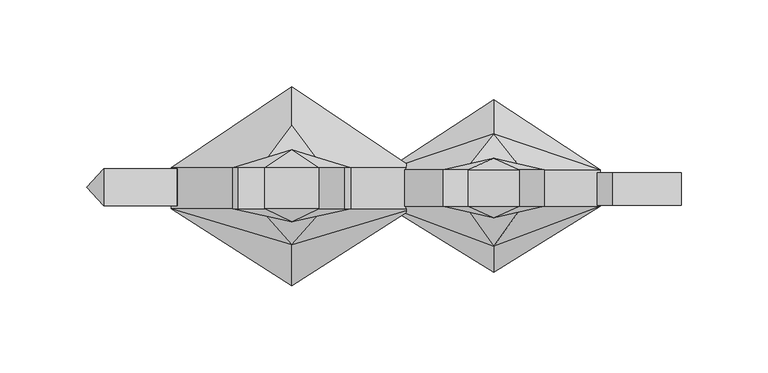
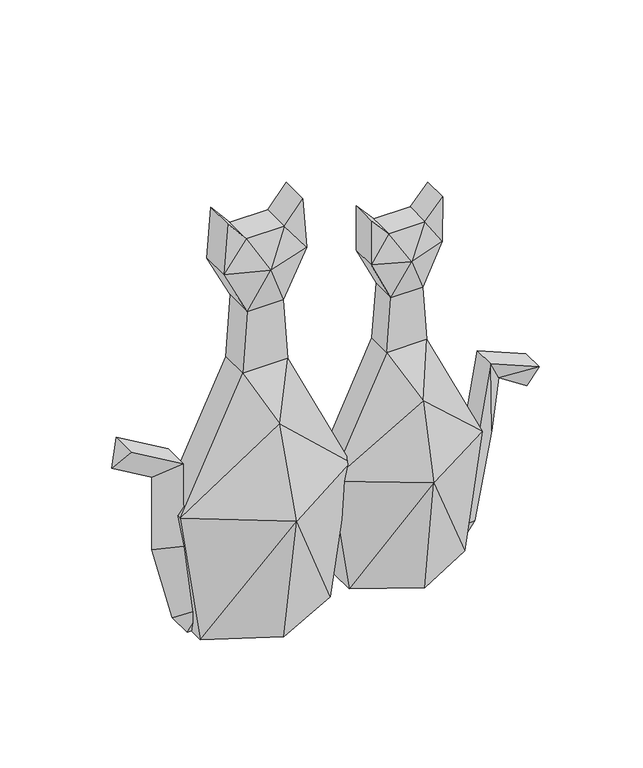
"""IFC4 building model written with IfcOpenShell, lengths in millimetres: geographic element geometry, Enscape AssetDefinition - Decorative Goods 012 Cats : Enscape AssetDefinition - Decorative Goods 012 Cats."""

from ifc_helpers import new_model, si_unit, origin, place, context, project, spatial, triangles, source, transform, mapped, element, save


def geographic_element_de8e18e4(model_context):
    return source(origin(), model_context, "Body", "Tessellation", [
        triangles([(61.0676615, -17.168548, 270.2483299), (90.1236505, -10.471447, 273.7434473), (75.8359824, -10.471447, 295.6705609), (46.2993405, 10.5532178, 295.6705609), (46.2993405, -10.471447, 295.6705609), (75.8359824, 10.5532178, 295.6705609), (31.9219114, -10.471447, 311.9535968), (31.9219114, 10.5532178, 311.9535968), (32.0116589, 10.5532178, 273.7434473), (32.0116589, -10.471447, 273.7434473), (90.1236505, 10.5532178, 273.7434473), (61.0676615, 17.2503177, 270.7259716), (90.2143971, -10.471447, 311.9535968), (90.2143971, 10.5532178, 311.9535968), (74.1437529, 10.5532178, 239.7154916), (47.9925557, 10.5532178, 239.7154916), (77.4843239, 10.5532178, 193.4999259), (74.1437529, -10.471447, 239.7154916), (47.9925557, -10.471447, 239.7154916), (61.0676615, -33.5184074, 160.1141367), (77.4843239, -10.471447, 193.4999259), (122.7565605, 10.5532178, 98.1141148), (122.7565605, -10.471447, 98.1141148), (-0.6202495, -10.471447, 98.1141148), (61.0676615, -35.853814, 0.0), (61.0676615, -48.6487066, 98.3394735), (108.1936685, -10.471447, 0.0), (108.1936685, 10.5532178, 0.0), (61.0676615, 51.0808437, 98.3394735), (61.0676615, 37.235913, 0.0), (13.9416545, -10.471447, 0.0), (13.9426525, 10.5532178, 0.0), (61.0676615, 31.3674781, 160.1141367), (44.65099, -10.471447, 193.4999259), (-0.6202495, 10.5532178, 98.1141148), (44.65099, 10.5532178, 193.4999259), (105.904128, 8.9028745, 21.9241273), (136.3372359, -0.5215282, 87.6286901), (122.2320467, -0.5215282, 15.0535166), (95.282111, -0.5215282, 0.0), (111.3128549, -0.5215282, 0.0), (105.904128, -9.9459307, 21.9241273), (118.823661, 8.9028745, 89.863392), (118.823661, -9.9459307, 89.863392), (141.7908547, -0.5215282, 131.6753929), (129.8505406, 8.9028745, 153.4938286), (129.8505406, -9.9459307, 153.4938286), (164.8418096, -0.5215282, 116.6158924), (169.4886917, -9.9459307, 137.0562055), (169.4886917, 8.9028745, 137.0562055), (-21.4424866, 11.6710627, 308.4704518), (-89.646999, 11.6710627, 308.4704518), (-55.5452424, 22.0866697, 304.5315753), (-39.9971226, 11.6710627, 333.1796994), (-39.9971226, -12.0210754, 333.1796994), (-71.0923675, 11.6710627, 333.1796994), (-24.8598425, -12.0210754, 351.5279254), (-24.8598425, 11.6710627, 351.5279254), (-21.4424866, -12.0210754, 308.4704518), (-89.646999, -12.0210754, 308.4704518), (-55.5452424, -19.5677782, 305.0690606), (-71.0923675, -12.0210754, 333.1796994), (-86.2296476, -12.0210754, 351.5279254), (-86.2296476, 11.6710627, 351.5279254), (-70.2796582, 11.6710627, 270.125663), (-70.2796582, -12.0210754, 270.125663), (-74.0440406, -12.0210754, 218.0476463), (-40.810822, 11.6710627, 270.125663), (-40.810822, -12.0210754, 270.125663), (-74.0440406, 11.6710627, 218.0476463), (-108.649382, -12.0210754, 0.0), (-125.0590726, 11.6710627, 110.5599848), (-125.0590726, -12.0210754, 110.5599848), (-55.5452424, -56.5384412, 110.8142753), (-55.5452424, 36.6475768, 180.4258148), (-2.4411108, 11.6710627, 0.0), (-55.5452424, 58.5208466, 110.8142753), (-108.649382, 11.6710627, 0.0), (-55.5452424, 38.9530684, 0.0), (-55.5452424, -38.301909, 0.0), (-2.4411108, -12.0210754, 0.0), (13.9695756, -12.0210754, 110.5599848), (-55.5452424, -32.8183797, 180.4258148), (13.9695756, 11.6710627, 110.5599848), (-37.0454518, 11.6710627, 218.0476463), (-37.0454518, -12.0210754, 218.0476463), (-140.9452395, 0.4587055, 81.3613855), (-124.468738, 0.4587055, 16.9631282), (-94.0994343, 0.4587055, 0.0), (-112.1634662, 0.4587055, 0.0), (-106.0686529, -10.1613234, 24.705278), (-106.0686529, 11.0787353, 24.705278), (-121.2099252, 11.0787353, 83.8802816), (-121.4522433, -10.1613234, 155.5500257), (-121.2099252, -10.1613234, 83.8802816), (-121.4522433, 11.0787353, 155.5500257), (-163.9493132, -10.1613234, 180.2752244), (-141.1586258, 0.4587055, 144.1721319), (-163.9493132, 11.0787353, 180.2752244), (-173.879303, 0.4587055, 163.2094056)], [[97, 99, 100], [98, 100, 99], [96, 99, 97], [99, 96, 98], [97, 94, 96], [94, 97, 100], [100, 98, 94], [95, 94, 98], [87, 98, 96], [98, 87, 95], [93, 96, 94], [94, 95, 93], [96, 93, 87], [92, 93, 95], [95, 91, 92], [91, 95, 87], [89, 92, 91], [90, 89, 91], [92, 89, 90], [88, 87, 93], [93, 92, 88], [87, 88, 91], [90, 88, 92], [88, 90, 91], [86, 85, 69], [85, 86, 82], [86, 83, 82], [85, 82, 84], [84, 82, 81], [84, 81, 76], [83, 74, 82], [82, 74, 81], [74, 80, 81], [76, 81, 80], [79, 76, 80], [71, 80, 74], [80, 71, 78], [80, 78, 79], [77, 79, 78], [77, 84, 76], [77, 76, 79], [75, 85, 84], [75, 84, 77], [72, 78, 71], [75, 77, 72], [77, 78, 72], [73, 74, 83], [72, 71, 73], [73, 71, 74], [67, 73, 83], [67, 83, 86], [70, 72, 73], [70, 73, 67], [75, 72, 70], [70, 85, 75], [68, 85, 70], [85, 68, 69], [51, 69, 68], [65, 68, 70], [70, 67, 66], [66, 67, 86], [70, 66, 65], [69, 66, 86], [52, 65, 66], [52, 66, 60], [52, 60, 63], [52, 63, 64], [62, 63, 60], [64, 63, 62], [66, 69, 61], [60, 66, 61], [61, 62, 60], [51, 59, 69], [59, 61, 69], [51, 57, 59], [51, 58, 57], [59, 57, 55], [61, 55, 62], [58, 55, 57], [61, 59, 55], [52, 64, 56], [56, 62, 55], [64, 62, 56], [54, 58, 51], [54, 56, 55], [58, 54, 55], [68, 65, 53], [53, 51, 68], [53, 56, 54], [53, 65, 52], [53, 52, 56], [53, 54, 51], [50, 49, 48], [45, 48, 49], [47, 49, 50], [49, 47, 45], [50, 46, 47], [46, 50, 48], [48, 45, 46], [43, 46, 45], [38, 45, 47], [45, 38, 43], [44, 47, 46], [46, 43, 44], [47, 44, 38], [42, 44, 43], [43, 37, 42], [37, 43, 38], [40, 42, 37], [41, 40, 37], [42, 40, 41], [39, 38, 44], [44, 42, 39], [38, 39, 37], [41, 39, 42], [39, 41, 37], [36, 34, 16], [34, 36, 35], [36, 33, 35], [34, 35, 24], [24, 35, 32], [24, 32, 31], [33, 29, 35], [35, 29, 32], [29, 30, 32], [31, 32, 30], [25, 31, 30], [28, 30, 29], [30, 28, 27], [30, 27, 25], [26, 25, 27], [26, 24, 31], [26, 31, 25], [20, 34, 24], [20, 24, 26], [23, 27, 28], [20, 26, 23], [26, 27, 23], [22, 29, 33], [23, 28, 22], [22, 28, 29], [17, 22, 33], [17, 33, 36], [21, 23, 22], [21, 22, 17], [20, 23, 21], [21, 34, 20], [19, 34, 21], [34, 19, 16], [10, 16, 19], [18, 19, 21], [21, 17, 15], [15, 17, 36], [21, 15, 18], [16, 15, 36], [2, 18, 15], [2, 15, 11], [2, 11, 14], [2, 14, 13], [6, 14, 11], [13, 14, 6], [15, 16, 12], [11, 15, 12], [12, 6, 11], [10, 9, 16], [9, 12, 16], [10, 8, 9], [10, 7, 8], [9, 8, 4], [12, 4, 6], [7, 4, 8], [12, 9, 4], [2, 13, 3], [3, 6, 4], [13, 6, 3], [5, 7, 10], [5, 3, 4], [7, 5, 4], [19, 18, 1], [1, 10, 19], [1, 3, 5], [1, 18, 2], [1, 2, 3], [1, 5, 10]]),
    ])


if __name__ == "__main__":
    model = new_model("IFC4")
    model_context = context("Model", 3, world=origin())
    ifc_project = project(units=[si_unit("LENGTHUNIT", "METRE", prefix="MILLI")], contexts=[model_context])
    site = spatial("IfcSite", under=ifc_project)
    building = spatial("IfcBuilding", under=site)
    placement = place(None, origin())
    geographic_element_shape = geographic_element_de8e18e4(model_context)
    element("IfcGeographicElement", 1, ObjectType="Enscape AssetDefinition - Decorative Goods 012 Cats : Enscape AssetDefinition - Decorative Goods 012 Cats", at=placement, inside=building, context=model_context, shape_type="MappedRepresentation", body=[
        mapped(geographic_element_shape, transform((0.0, 0.0, 0.0), x_axis=(1.0, 0.0, 0.0), y_axis=(0.0, 1.0, 0.0), z_axis=(0.0, 0.0, 1.0))),
    ])
    save(model, "model.ifc")
